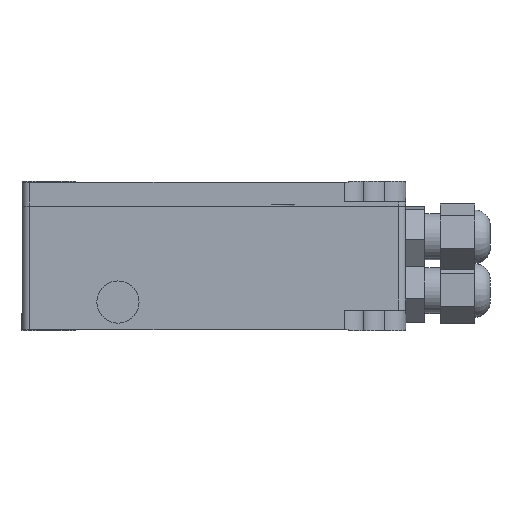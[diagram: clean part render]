
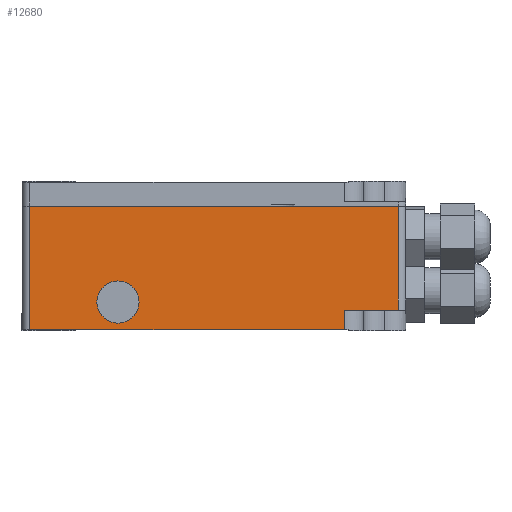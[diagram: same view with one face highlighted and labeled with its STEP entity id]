
A CAD part, front view. The second image highlights one B-rep face of the part: STEP entity #12680.
In plain terms, the highlighted planar face has unit normal (0, -1, 0).
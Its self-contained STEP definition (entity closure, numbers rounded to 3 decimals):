
#81 = EDGE_CURVE ( 'NONE', #11642, #11621, #21569, .T. ) ;
#82 = EDGE_CURVE ( 'NONE', #11630, #11773, #21566, .T. ) ;
#83 = EDGE_CURVE ( 'NONE', #11630, #11777, #21570, .T. ) ;
#84 = EDGE_CURVE ( 'NONE', #11772, #11777, #21571, .T. ) ;
#85 = EDGE_CURVE ( 'NONE', #11768, #11772, #21573, .T. ) ;
#86 = EDGE_CURVE ( 'NONE', #11766, #11768, #21575, .T. ) ;
#87 = EDGE_CURVE ( 'NONE', #11766, #11773, #21581, .T. ) ;
#1293 = CIRCLE ( 'NONE', #17666, 5.5 ) ;
#1667 = FACE_BOUND ( 'NONE', #21339, .T. ) ;
#1791 = FACE_OUTER_BOUND ( 'NONE', #3870, .T. ) ;
#3870 = EDGE_LOOP ( 'NONE', ( #16717, #16650, #16611, #16837, #16905, #16723 ) ) ;
#10743 = CARTESIAN_POINT ( 'NONE',  ( -80.5, 0., 7.5 ) ) ;
#10787 = CARTESIAN_POINT ( 'NONE',  ( -98., 0., 0.3 ) ) ;
#10814 = CARTESIAN_POINT ( 'NONE',  ( -98., 0., 32.5 ) ) ;
#11288 = CARTESIAN_POINT ( 'NONE',  ( -15.95, 0., 0.3 ) ) ;
#11337 = CARTESIAN_POINT ( 'NONE',  ( -2., 0., 5.4 ) ) ;
#11445 = CARTESIAN_POINT ( 'NONE',  ( -69.5, 0., 7.5 ) ) ;
#11475 = CARTESIAN_POINT ( 'NONE',  ( -2., 0., 32.5 ) ) ;
#11493 = CARTESIAN_POINT ( 'NONE',  ( -15.95, 0., 5.4 ) ) ;
#11621 = VERTEX_POINT ( 'NONE', #10743 ) ;
#11630 = VERTEX_POINT ( 'NONE', #10814 ) ;
#11642 = VERTEX_POINT ( 'NONE', #11445 ) ;
#11766 = VERTEX_POINT ( 'NONE', #11337 ) ;
#11768 = VERTEX_POINT ( 'NONE', #11493 ) ;
#11772 = VERTEX_POINT ( 'NONE', #11288 ) ;
#11773 = VERTEX_POINT ( 'NONE', #11475 ) ;
#11777 = VERTEX_POINT ( 'NONE', #10787 ) ;
#12680 = ADVANCED_FACE ( 'NONE', ( #1667, #1791 ), #21939, .F. ) ;
#16611 = ORIENTED_EDGE ( 'NONE', *, *, #84, .F. ) ;
#16650 = ORIENTED_EDGE ( 'NONE', *, *, #83, .T. ) ;
#16674 = ORIENTED_EDGE ( 'NONE', *, *, #19380, .F. ) ;
#16717 = ORIENTED_EDGE ( 'NONE', *, *, #82, .F. ) ;
#16723 = ORIENTED_EDGE ( 'NONE', *, *, #87, .T. ) ;
#16837 = ORIENTED_EDGE ( 'NONE', *, *, #85, .F. ) ;
#16904 = ORIENTED_EDGE ( 'NONE', *, *, #81, .F. ) ;
#16905 = ORIENTED_EDGE ( 'NONE', *, *, #86, .F. ) ;
#17503 = AXIS2_PLACEMENT_3D ( 'NONE', #21950, #21930, #21972 ) ;
#17666 = AXIS2_PLACEMENT_3D ( 'NONE', #19008, #19007, #19006 ) ;
#19006 = DIRECTION ( 'NONE',  ( 1., 0., 0. ) ) ;
#19007 = DIRECTION ( 'NONE',  ( 0., -1., 0. ) ) ;
#19008 = CARTESIAN_POINT ( 'NONE',  ( -75., 0., 7.5 ) ) ;
#19380 = EDGE_CURVE ( 'NONE', #11621, #11642, #1293, .T. ) ;
#19853 = AXIS2_PLACEMENT_3D ( 'NONE', #19899, #19902, #19900 ) ;
#19897 = DIRECTION ( 'NONE',  ( 1., 0., 0. ) ) ;
#19899 = CARTESIAN_POINT ( 'NONE',  ( -75., 0., 7.5 ) ) ;
#19900 = DIRECTION ( 'NONE',  ( 1., 0., 0. ) ) ;
#19901 = CARTESIAN_POINT ( 'NONE',  ( -100., 0., 32.5 ) ) ;
#19902 = DIRECTION ( 'NONE',  ( 0., -1., 0. ) ) ;
#19903 = CARTESIAN_POINT ( 'NONE',  ( -98., 0., 32. ) ) ;
#19915 = CARTESIAN_POINT ( 'NONE',  ( -100., 0., 0.3 ) ) ;
#19923 = DIRECTION ( 'NONE',  ( 0., 0., -1. ) ) ;
#19927 = DIRECTION ( 'NONE',  ( -1., 0., 0. ) ) ;
#19960 = DIRECTION ( 'NONE',  ( -1., 0., 0. ) ) ;
#19972 = CARTESIAN_POINT ( 'NONE',  ( -15.95, 0., 28.138 ) ) ;
#19973 = CARTESIAN_POINT ( 'NONE',  ( 0., 0., 5.4 ) ) ;
#19981 = DIRECTION ( 'NONE',  ( 0., 0., -1. ) ) ;
#20129 = CARTESIAN_POINT ( 'NONE',  ( -2., 0., 32. ) ) ;
#20133 = DIRECTION ( 'NONE',  ( 0., 0., 1. ) ) ;
#21339 = EDGE_LOOP ( 'NONE', ( #16904, #16674 ) ) ;
#21566 = LINE ( 'NONE', #19901, #21572 ) ;
#21569 = CIRCLE ( 'NONE', #19853, 5.5 ) ;
#21570 = LINE ( 'NONE', #19903, #21574 ) ;
#21571 = LINE ( 'NONE', #19915, #21576 ) ;
#21572 = VECTOR ( 'NONE', #19897, 1000. ) ;
#21573 = LINE ( 'NONE', #19972, #21582 ) ;
#21574 = VECTOR ( 'NONE', #19923, 1000. ) ;
#21575 = LINE ( 'NONE', #19973, #21580 ) ;
#21576 = VECTOR ( 'NONE', #19927, 1000. ) ;
#21578 = VECTOR ( 'NONE', #20133, 1000. ) ;
#21580 = VECTOR ( 'NONE', #19960, 1000. ) ;
#21581 = LINE ( 'NONE', #20129, #21578 ) ;
#21582 = VECTOR ( 'NONE', #19981, 1000. ) ;
#21930 = DIRECTION ( 'NONE',  ( 0., 1., 0. ) ) ;
#21939 = PLANE ( 'NONE',  #17503 ) ;
#21950 = CARTESIAN_POINT ( 'NONE',  ( 0., 0., 32. ) ) ;
#21972 = DIRECTION ( 'NONE',  ( -1., 0., 0. ) ) ;
